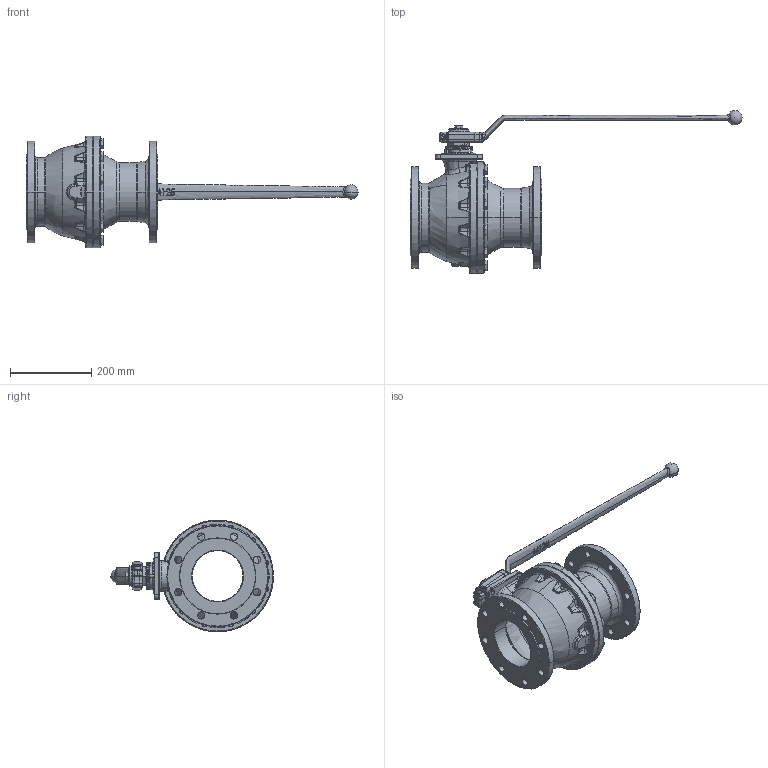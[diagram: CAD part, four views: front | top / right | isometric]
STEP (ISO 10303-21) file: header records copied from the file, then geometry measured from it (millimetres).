
FILE_DESCRIPTION (( 'STEP AP214' ), '1' );
FILE_NAME ('FIG 516 - DN125 con maneta.STEP', '2016-10-03T17:45:24', ( '' ), ( '' ), 'SwSTEP 2.0', 'SolidWorks 2016', '' );
FILE_SCHEMA (( 'AUTOMOTIVE_DESIGN' ));
Length unit declared in the file: millimetre
Products named in the file (18): 5182_17; 5182_10-1; 0516125C; DIN 933 - M14 x 35_DIN 933 - M14 x 35; 200125_41; 5282_46; 5182_07; FIG 516 - DN125 con maneta; EPI125Q; JT125FV (45x35x2); 0516125L; DIN 912 - M10 x 30_DIN 912 M10 x 30; M125CHST; 5182_08; P125G (45x35x6,4)_Comprimida; 00820920; DIN 6325 - Ø8x20; DIN 933 - M12 x 20_DIN 933 - M12 x 20
Assembly tree (31 placements, depth 2):
  FIG 516 - DN125 con maneta
    0516125C
    0516125L
    EPI125Q
    P125G (45x35x6,4)_Comprimida  x3
    5182_10-1
    JT125FV (45x35x2)
    00820920
    200125_41
    5182_08  x2
    5282_46
    5182_07
    M125CHST
    5182_17
    DIN 933 - M12 x 20_DIN 933 - M12 x 20
    DIN 912 - M10 x 30_DIN 912 M10 x 30
    DIN 6325 - Ø8x20
    DIN 933 - M14 x 35_DIN 933 - M14 x 35  x12
Bounding box: 817.5 x 401.1 x 275 mm (x, y, z)
Volume: 5072291.7 mm3; surface area: 855608.3 mm2
Topology: 31 solids, 31 shells, 1357 faces, 3306 edges, 1959 vertices
Faces by surface type: plane 382, cylinder 367, bspline 298, cone 235, torus 65, sphere 10
Entity records: 61051 total; most frequent: CARTESIAN_POINT 37825, ORIENTED_EDGE 5054, DIRECTION 4112, EDGE_CURVE 2527, AXIS2_PLACEMENT_3D 1706, VERTEX_POINT 1558, EDGE_LOOP 1149, ADVANCED_FACE 1018
